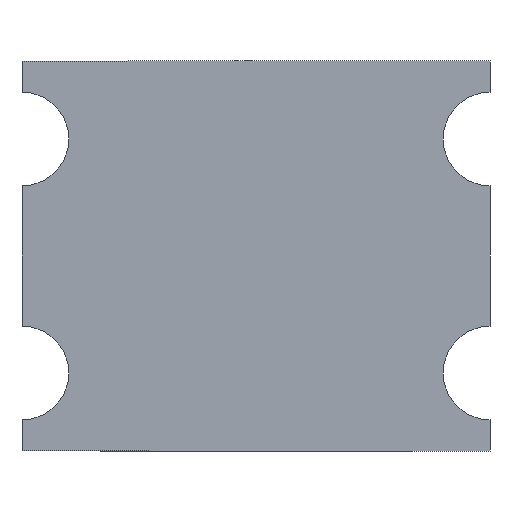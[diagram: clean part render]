
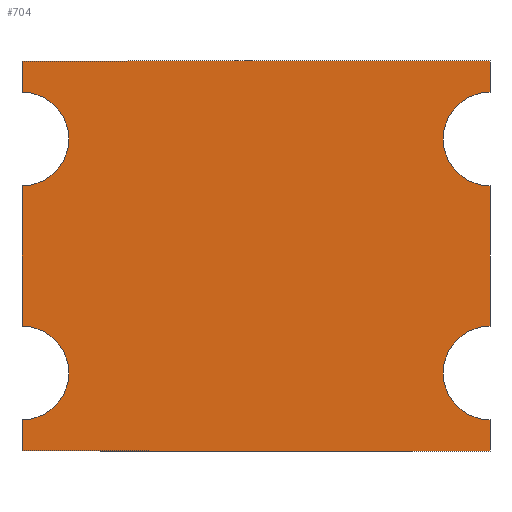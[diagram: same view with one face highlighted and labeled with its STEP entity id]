
A CAD part, front view. The second image highlights one B-rep face of the part: STEP entity #704.
In plain terms, the highlighted planar face has unit normal (0, -1, 0).
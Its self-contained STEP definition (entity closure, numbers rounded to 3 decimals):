
#56 = AXIS2_PLACEMENT_3D ( 'NONE', #324, #336, #337 ) ;
#159 = AXIS2_PLACEMENT_3D ( 'NONE', #1369, #1370, #1371 ) ;
#160 = AXIS2_PLACEMENT_3D ( 'NONE', #340, #341, #342 ) ;
#161 = AXIS2_PLACEMENT_3D ( 'NONE', #743, #744, #745 ) ;
#162 = AXIS2_PLACEMENT_3D ( 'NONE', #584, #585, #586 ) ;
#191 = EDGE_CURVE ( 'NONE', #1120, #1117, #951, .T. ) ;
#194 = EDGE_CURVE ( 'NONE', #1117, #1121, #945, .T. ) ;
#196 = EDGE_CURVE ( 'NONE', #1121, #1237, #947, .T. ) ;
#198 = EDGE_CURVE ( 'NONE', #1237, #1241, #941, .T. ) ;
#200 = EDGE_CURVE ( 'NONE', #1241, #1228, #937, .T. ) ;
#202 = EDGE_CURVE ( 'NONE', #1228, #1219, #934, .T. ) ;
#204 = EDGE_CURVE ( 'NONE', #1219, #1214, #930, .T. ) ;
#207 = EDGE_CURVE ( 'NONE', #1214, #1208, #927, .T. ) ;
#210 = EDGE_CURVE ( 'NONE', #1208, #1204, #917, .T. ) ;
#212 = EDGE_CURVE ( 'NONE', #1204, #1202, #915, .T. ) ;
#215 = EDGE_CURVE ( 'NONE', #1202, #1306, #910, .T. ) ;
#218 = EDGE_CURVE ( 'NONE', #1306, #1120, #900, .T. ) ;
#259 = CARTESIAN_POINT ( 'NONE',  ( -1.5, 0., -1.05 ) ) ;
#261 = DIRECTION ( 'NONE',  ( -1., 0., 0. ) ) ;
#266 = DIRECTION ( 'NONE',  ( 0., 0., 1. ) ) ;
#323 = PLANE ( 'NONE',  #56 ) ;
#324 = CARTESIAN_POINT ( 'NONE',  ( -1.5, 0., 0.75 ) ) ;
#336 = DIRECTION ( 'NONE',  ( 0., 1., 0. ) ) ;
#337 = DIRECTION ( 'NONE',  ( 0., 0., 1. ) ) ;
#339 = CARTESIAN_POINT ( 'NONE',  ( -1.5, 0., 0.45 ) ) ;
#340 = CARTESIAN_POINT ( 'NONE',  ( -1.5, 0., -0.75 ) ) ;
#341 = DIRECTION ( 'NONE',  ( 0., -1., 0. ) ) ;
#342 = DIRECTION ( 'NONE',  ( 0., 0., -1. ) ) ;
#345 = DIRECTION ( 'NONE',  ( 0., 0., 1. ) ) ;
#403 = CARTESIAN_POINT ( 'NONE',  ( -1.5, 0., 1.25 ) ) ;
#404 = CARTESIAN_POINT ( 'NONE',  ( 1.5, 0., 1.25 ) ) ;
#405 = DIRECTION ( 'NONE',  ( 0., 0., 1. ) ) ;
#574 = CARTESIAN_POINT ( 'NONE',  ( -1.5, 0., 1.25 ) ) ;
#575 = DIRECTION ( 'NONE',  ( 1., 0., 0. ) ) ;
#579 = DIRECTION ( 'NONE',  ( 0., 0., -1. ) ) ;
#583 = CARTESIAN_POINT ( 'NONE',  ( 1.5, 0., 0.45 ) ) ;
#584 = CARTESIAN_POINT ( 'NONE',  ( 1.5, 0., 0.75 ) ) ;
#585 = DIRECTION ( 'NONE',  ( 0., -1., 0. ) ) ;
#586 = DIRECTION ( 'NONE',  ( 0., 0., -1. ) ) ;
#704 = ADVANCED_FACE ( 'NONE', ( #841 ), #323, .F. ) ;
#737 = DIRECTION ( 'NONE',  ( 0., 0., -1. ) ) ;
#741 = CARTESIAN_POINT ( 'NONE',  ( -1.5, 0., -1.25 ) ) ;
#742 = CARTESIAN_POINT ( 'NONE',  ( 1.5, 0., -1.05 ) ) ;
#743 = CARTESIAN_POINT ( 'NONE',  ( 1.5, 0., -0.75 ) ) ;
#744 = DIRECTION ( 'NONE',  ( 0., -1., 0. ) ) ;
#745 = DIRECTION ( 'NONE',  ( 0., 0., 1. ) ) ;
#748 = DIRECTION ( 'NONE',  ( 0., 0., -1. ) ) ;
#751 = CARTESIAN_POINT ( 'NONE',  ( 1.5, 0., 0.45 ) ) ;
#753 = CARTESIAN_POINT ( 'NONE',  ( 1.5, 0., 1.05 ) ) ;
#758 = CARTESIAN_POINT ( 'NONE',  ( -1.5, 0., 0.45 ) ) ;
#841 = FACE_OUTER_BOUND ( 'NONE', #1127, .T. ) ;
#900 = CIRCLE ( 'NONE', #159, 0.3 ) ;
#901 = VECTOR ( 'NONE', #345, 1000. ) ;
#910 = LINE ( 'NONE', #339, #901 ) ;
#911 = VECTOR ( 'NONE', #266, 1000. ) ;
#915 = CIRCLE ( 'NONE', #160, 0.3 ) ;
#917 = LINE ( 'NONE', #259, #911 ) ;
#918 = VECTOR ( 'NONE', #261, 1000. ) ;
#924 = VECTOR ( 'NONE', #748, 1000. ) ;
#927 = LINE ( 'NONE', #741, #918 ) ;
#930 = LINE ( 'NONE', #742, #924 ) ;
#931 = VECTOR ( 'NONE', #737, 1000. ) ;
#934 = CIRCLE ( 'NONE', #161, 0.3 ) ;
#937 = LINE ( 'NONE', #583, #931 ) ;
#938 = VECTOR ( 'NONE', #579, 1000. ) ;
#941 = CIRCLE ( 'NONE', #162, 0.3 ) ;
#942 = VECTOR ( 'NONE', #575, 1000. ) ;
#945 = LINE ( 'NONE', #574, #942 ) ;
#947 = LINE ( 'NONE', #404, #938 ) ;
#948 = VECTOR ( 'NONE', #405, 1000. ) ;
#951 = LINE ( 'NONE', #403, #948 ) ;
#988 = ORIENTED_EDGE ( 'NONE', *, *, #196, .F. ) ;
#1117 = VERTEX_POINT ( 'NONE', #1326 ) ;
#1120 = VERTEX_POINT ( 'NONE', #1329 ) ;
#1121 = VERTEX_POINT ( 'NONE', #1330 ) ;
#1127 = EDGE_LOOP ( 'NONE', ( #1304, #1270, #1292, #1284, #1275, #1299, #1307, #1249, #1250, #1201, #988, #1266 ) ) ;
#1201 = ORIENTED_EDGE ( 'NONE', *, *, #198, .F. ) ;
#1202 = VERTEX_POINT ( 'NONE', #1347 ) ;
#1204 = VERTEX_POINT ( 'NONE', #1344 ) ;
#1208 = VERTEX_POINT ( 'NONE', #1346 ) ;
#1214 = VERTEX_POINT ( 'NONE', #1351 ) ;
#1219 = VERTEX_POINT ( 'NONE', #1348 ) ;
#1228 = VERTEX_POINT ( 'NONE', #1352 ) ;
#1237 = VERTEX_POINT ( 'NONE', #753 ) ;
#1241 = VERTEX_POINT ( 'NONE', #751 ) ;
#1249 = ORIENTED_EDGE ( 'NONE', *, *, #202, .F. ) ;
#1250 = ORIENTED_EDGE ( 'NONE', *, *, #200, .F. ) ;
#1266 = ORIENTED_EDGE ( 'NONE', *, *, #194, .F. ) ;
#1270 = ORIENTED_EDGE ( 'NONE', *, *, #218, .F. ) ;
#1275 = ORIENTED_EDGE ( 'NONE', *, *, #210, .F. ) ;
#1284 = ORIENTED_EDGE ( 'NONE', *, *, #212, .F. ) ;
#1292 = ORIENTED_EDGE ( 'NONE', *, *, #215, .F. ) ;
#1299 = ORIENTED_EDGE ( 'NONE', *, *, #207, .F. ) ;
#1304 = ORIENTED_EDGE ( 'NONE', *, *, #191, .F. ) ;
#1306 = VERTEX_POINT ( 'NONE', #758 ) ;
#1307 = ORIENTED_EDGE ( 'NONE', *, *, #204, .F. ) ;
#1326 = CARTESIAN_POINT ( 'NONE',  ( -1.5, 0., 1.25 ) ) ;
#1329 = CARTESIAN_POINT ( 'NONE',  ( -1.5, 0., 1.05 ) ) ;
#1330 = CARTESIAN_POINT ( 'NONE',  ( 1.5, 0., 1.25 ) ) ;
#1344 = CARTESIAN_POINT ( 'NONE',  ( -1.5, 0., -1.05 ) ) ;
#1346 = CARTESIAN_POINT ( 'NONE',  ( -1.5, 0., -1.25 ) ) ;
#1347 = CARTESIAN_POINT ( 'NONE',  ( -1.5, 0., -0.45 ) ) ;
#1348 = CARTESIAN_POINT ( 'NONE',  ( 1.5, 0., -1.05 ) ) ;
#1351 = CARTESIAN_POINT ( 'NONE',  ( 1.5, 0., -1.25 ) ) ;
#1352 = CARTESIAN_POINT ( 'NONE',  ( 1.5, 0., -0.45 ) ) ;
#1369 = CARTESIAN_POINT ( 'NONE',  ( -1.5, 0., 0.75 ) ) ;
#1370 = DIRECTION ( 'NONE',  ( 0., -1., 0. ) ) ;
#1371 = DIRECTION ( 'NONE',  ( 0., 0., 1. ) ) ;
